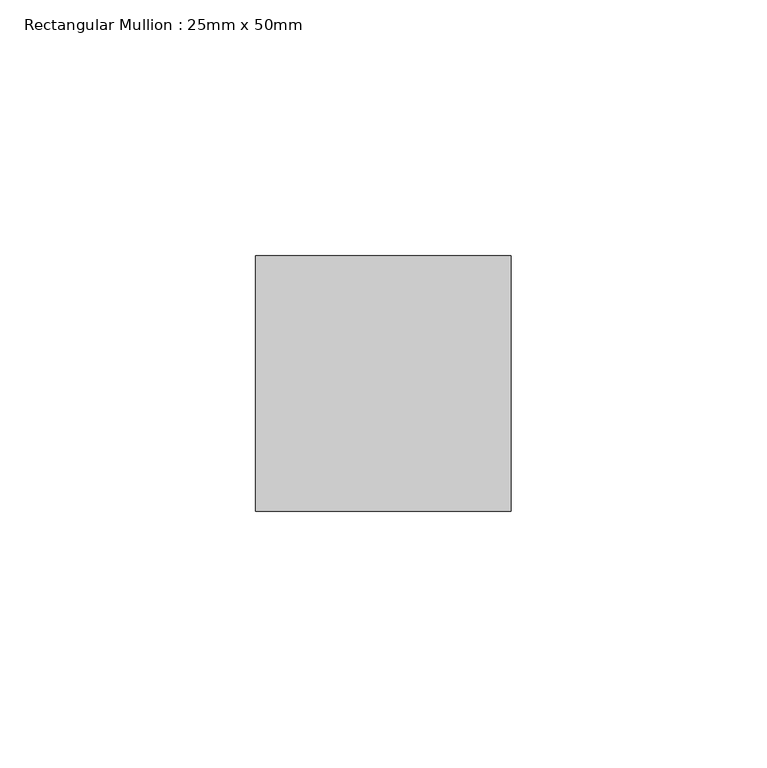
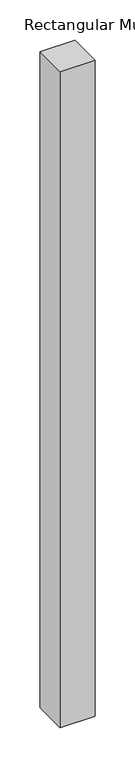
"""IFC4 building model written with IfcOpenShell, lengths in millimetres: member geometry, Rectangular Mullion : 25mm x 50mm."""

from ifc_helpers import new_model, si_unit, frame, origin, place, context, project, spatial, polyline, outline, extrude, source, transform, mapped, element, save


def rectangular_mullion_25mm_x_50mm_b90aaa5f(model_context):
    return source(origin(), model_context, "Body", "SweptSolid", [
        extrude(outline(polyline([(25.0, 25.0), (25.0, -25.0), (-25.0, -25.0), (-25.0, 25.0), (25.0, 25.0)])), frame((0.0, 0.0, -994.9868082), z_axis=(0.0, 0.0, 1.0), x_axis=(1.0, 0.0, 0.0)), (0.0, 0.0, 1.0), 994.9868082),
    ])


if __name__ == "__main__":
    model = new_model("IFC4")
    model_context = context("Model", 3, world=origin())
    ifc_project = project(units=[si_unit("LENGTHUNIT", "METRE", prefix="MILLI")], contexts=[model_context])
    site = spatial("IfcSite", under=ifc_project)
    building = spatial("IfcBuilding", under=site)
    placement = place(None, origin())
    rectangular_mullion_25mm_x_50mm_shape = rectangular_mullion_25mm_x_50mm_b90aaa5f(model_context)
    element("IfcMember", 1, ObjectType="Rectangular Mullion : 25mm x 50mm", at=placement, inside=building, context=model_context, shape_type="MappedRepresentation", body=[
        mapped(rectangular_mullion_25mm_x_50mm_shape, transform((0.0, 0.0, 0.0), x_axis=(1.0, 0.0, 0.0), y_axis=(0.0, 1.0, 0.0), z_axis=(0.0, 0.0, 1.0))),
    ])
    save(model, "model.ifc")
